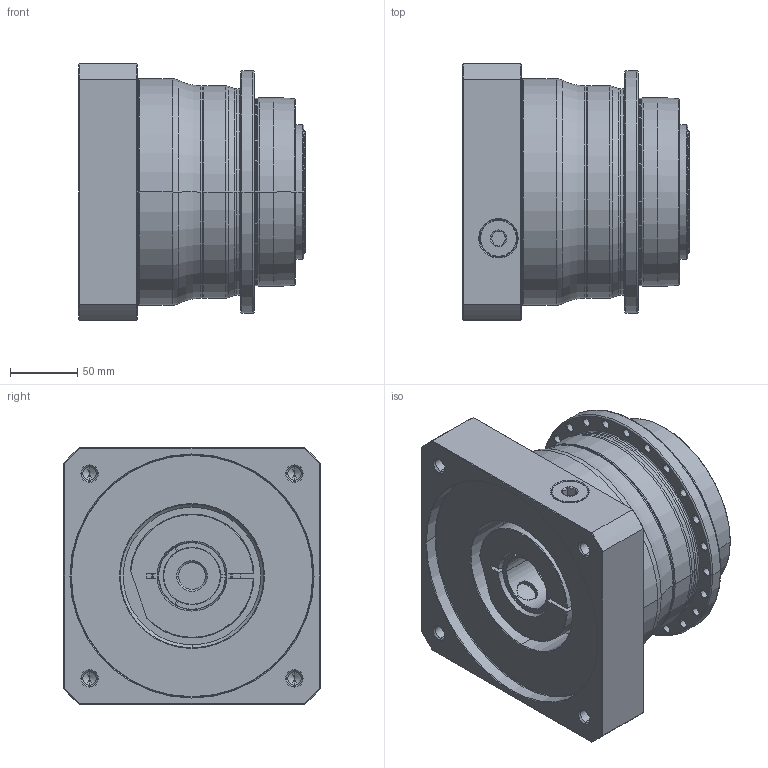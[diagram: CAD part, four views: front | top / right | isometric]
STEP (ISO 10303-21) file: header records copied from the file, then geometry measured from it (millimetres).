
FILE_DESCRIPTION((''),'2;1');
FILE_NAME('AP140_1ST_42-P0409A00201_ASM','2018-05-25T',('d01226'),(''),'PRO/ENGINEER BY PARAMETRIC TECHNOLOGY CORPORATION, 2008410','PRO/ENGINEER BY PARAMETRIC TECHNOLOGY CORPORATION, 2008410','');
FILE_SCHEMA(('CONFIG_CONTROL_DESIGN'));
Length unit declared in the file: millimetre
Products named in the file (9): P0278501003; P0359501103; P1318510501; P0503A00012; P0912505001; P1211500001; P0409A00201; 21711422019; AP140_1ST_42-P0409A00201_ASM
Assembly tree (8 placements, depth 2):
  AP140_1ST_42-P0409A00201_ASM
    P0278501003
    P0359501103
    P1318510501
    P0503A00012
    P0912505001
    P1211500001
    P0409A00201
    21711422019
Bounding box: 168 x 190 x 190 mm (x, y, z)
Volume: 3128273.1 mm3; surface area: 393748.5 mm2
Topology: 9 solids, 34 shells, 643 faces, 1489 edges, 918 vertices
Faces by surface type: cylinder 270, cone 182, plane 109, torus 68, bspline 14
Entity records: 23262 total; most frequent: CARTESIAN_POINT 7808, DIRECTION 3559, ORIENTED_EDGE 2860, AXIS2_PLACEMENT_3D 1521, EDGE_CURVE 1481, VERTEX_POINT 918, CIRCLE 865, EDGE_LOOP 801
